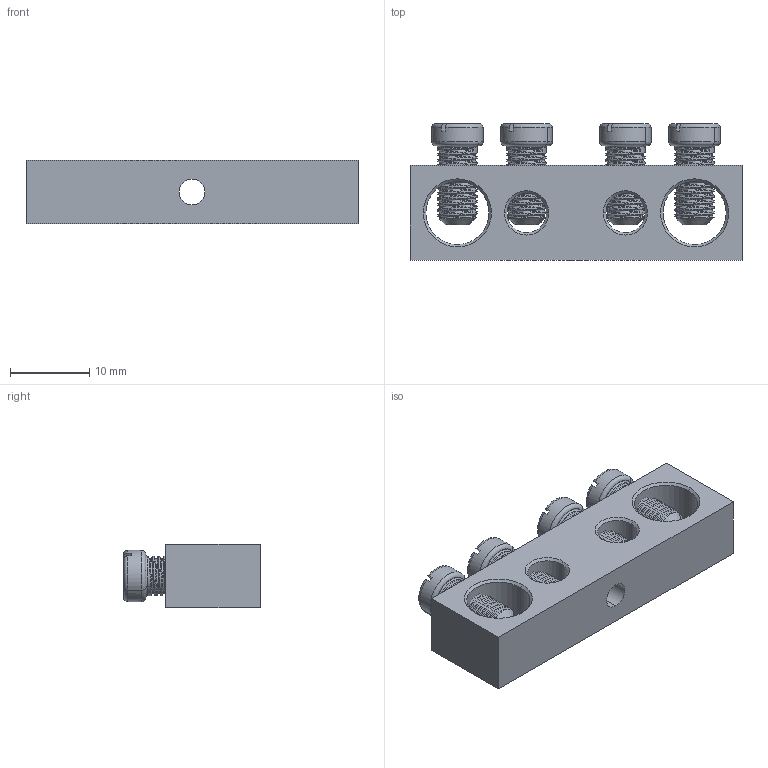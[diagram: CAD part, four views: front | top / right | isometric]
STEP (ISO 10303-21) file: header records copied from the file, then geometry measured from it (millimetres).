
FILE_DESCRIPTION (( 'STEP AP214' ), '1' );
FILE_NAME ('Øèíà íóëåâàÿ ñ êðåïåæíûì îòâåðñòèåì ïî öåíòðó 8õ12 4-1.STEP', '2020-02-07T06:03:11', ( '' ), ( '' ), 'SwSTEP 2.0', 'SolidWorks 2018', '' );
FILE_SCHEMA (( 'AUTOMOTIVE_DESIGN' ));
Length unit declared in the file: millimetre
Products named in the file (3): Âèíò ì5; Øèíà 8õ12 4 1; Øèíà íóëåâàÿ ñ êðåïåæíûì îòâåðñòèåì ïî öåíòðó 8õ12 4-1
Assembly tree (5 placements, depth 2):
  Øèíà íóëåâàÿ ñ êðåïåæíûì îòâåðñòèåì ïî öåíòðó 8õ12 4-1
    Øèíà 8õ12 4 1
    Âèíò ì5  x4
Bounding box: 42 x 17.3 x 8 mm (x, y, z)
Volume: 3671.9 mm3; surface area: 3702.1 mm2
Topology: 5 solids, 5 shells, 340 faces, 938 edges, 604 vertices
Faces by surface type: cylinder 130, plane 114, cone 56, torus 28, bspline 12
Entity records: 5895 total; most frequent: CARTESIAN_POINT 2955, ORIENTED_EDGE 612, DIRECTION 527, EDGE_CURVE 306, AXIS2_PLACEMENT_3D 201, VERTEX_POINT 196, EDGE_LOOP 134, LINE 125
